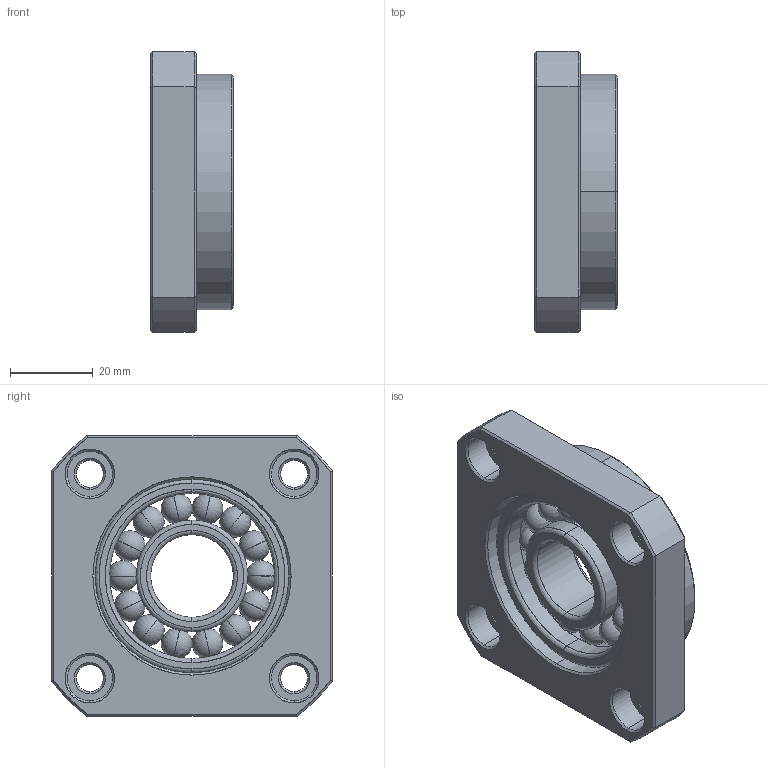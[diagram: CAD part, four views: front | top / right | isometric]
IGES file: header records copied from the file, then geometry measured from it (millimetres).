
Start section: SolidWorks IGES file using analytic representation for surfaces
Bounding box: 20 x 68 x 68 mm (x, y, z)
Surface area: 22998.4 mm2 (no closed solid volume)
Topology: 0 solids, 0 shells, 147 faces, 1720 edges, 1692 vertices
Faces by surface type: revolution 102, bspline 45
